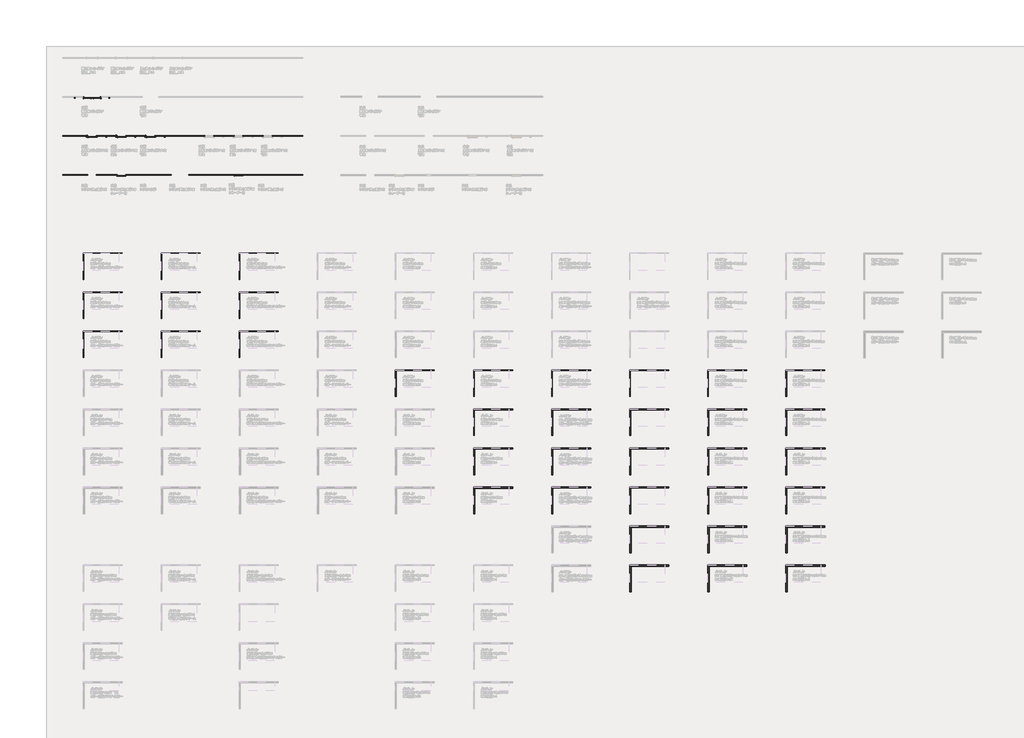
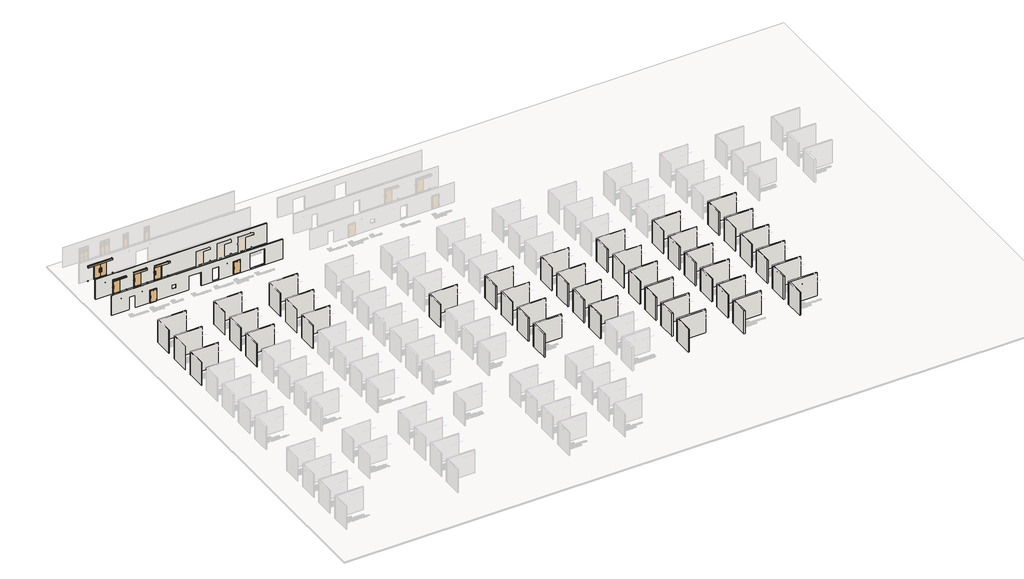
# One storey, part 2 of 117: 74 walls, 6 doors.
"""IFC4 building model written with IfcOpenShell, lengths in millimetres."""

from ifc_helpers import new_model, si_unit, frame, origin, place, context, project, spatial, polyline, outline, extrude, faceted_brep, transform, mapped, element, save
from components import door_d97cfcf3, door_0f3012db, door_3a216a61, door_3e6fd68f, door_920d7e31, door_fa35789d

model = new_model("IFC4")

# Units and contexts
model_context = context("Model", 3, world=origin())
ifc_project = project(units=[si_unit("LENGTHUNIT", "METRE", prefix="MILLI")], contexts=[model_context])

# Site, building, storey
site = spatial("IfcSite", under=ifc_project)
building = spatial("IfcBuilding", under=site)
storey = spatial("IfcBuildingStorey", under=building, Name="レベル 1", Elevation=500.0)

# Doors
placement = place(None, origin())
door_shape = door_d97cfcf3(model_context)
element("IfcDoor", 1, ObjectType="冷蔵_シリウス片開き扉4方_クローザー付 : W870xH1800xt50", at=placement, inside=storey, context=model_context, shape_type="MappedRepresentation", body=[
    mapped(door_shape, transform((-8100.0, 20000.0, 700.0), x_axis=(-1.0, 0.0, 0.0), y_axis=(0.0, -1.0, 0.0), z_axis=(0.0, 0.0, 1.0))),
])
door_2_shape = door_0f3012db(model_context)
element("IfcDoor", 2, ObjectType="冷蔵_片引きスライドドア3方_自閉 : W870xH1905xt55", at=placement, inside=storey, context=model_context, shape_type="MappedRepresentation", body=[
    mapped(door_2_shape, transform((-20100.0, 24000.0, 500.0), x_axis=(-1.0, 0.0, 0.0), y_axis=(0.0, -1.0, 0.0), z_axis=(0.0, 0.0, 1.0))),
])
door_3_shape = door_3a216a61(model_context)
element("IfcDoor", 3, ObjectType="冷蔵_片引きスライドドア3方_手動 : W870xH1905xt55", at=placement, inside=storey, context=model_context, shape_type="MappedRepresentation", body=[
    mapped(door_3_shape, transform((-23100.0, 24000.0, 500.0), x_axis=(-1.0, 0.0, 0.0), y_axis=(0.0, -1.0, 0.0), z_axis=(0.0, 0.0, 1.0))),
])
door_4_shape = door_3e6fd68f(model_context)
element("IfcDoor", 4, ObjectType="冷蔵_片引きスライドドア3方_電動 : W870xH1905xt55", at=placement, inside=storey, context=model_context, shape_type="MappedRepresentation", body=[
    mapped(door_4_shape, transform((-17100.0, 24000.0, 500.0), x_axis=(-1.0, 0.0, 0.0), y_axis=(0.0, -1.0, 0.0), z_axis=(0.0, 0.0, 1.0))),
])
door_5_shape = door_920d7e31(model_context)
element("IfcDoor", 5, ObjectType="冷蔵_両引きスライドドア_手動 : W1671xH2000xt50", at=placement, inside=storey, context=model_context, shape_type="MappedRepresentation", body=[
    mapped(door_5_shape, transform((-23100.0, 28000.0, 500.0), x_axis=(-1.0, 0.0, 0.0), y_axis=(0.0, -1.0, 0.0), z_axis=(0.0, 0.0, 1.0))),
])
door_6_shape = door_fa35789d(model_context)
element("IfcDoor", 6, ObjectType="冷蔵_シリウス片開き扉3方_クローザー付 : W870xH1855xt50", at=placement, inside=storey, context=model_context, shape_type="MappedRepresentation", body=[
    mapped(door_6_shape, transform((-20100.0, 20000.0, 500.0), x_axis=(-1.0, 0.0, 0.0), y_axis=(0.0, -1.0, 0.0), z_axis=(0.0, 0.0, 1.0))),
])

# Walls
element("IfcWall", 7, ObjectType="g-p_断熱パネル(フラット)t44", at=placement, inside=storey, context=model_context, shape_type="Brep", body=[
    faceted_brep([(-24000.0, 11956.0, 500.0), (-23956.0, 11956.0, 500.0), (-20000.0, 11956.0, 500.0), (-20000.0, 11956.0, 4000.0), (-23956.0, 11956.0, 4000.0), (-24000.0, 11956.0, 4000.0), (-24000.0, 12000.0, 500.0), (-24000.0, 12000.0, 4000.0), (-20000.0, 12000.0, 4000.0), (-20000.0, 12000.0, 500.0)], [[[0, 1, 2, 3, 4, 5]], [[6, 7, 8, 9]], [[2, 1, 0, 6, 9]], [[3, 2, 9, 8]], [[5, 4, 3, 8, 7]], [[0, 5, 7, 6]]]),
])
element("IfcWall", 8, ObjectType="g-p_断熱パネル(フラット)t44", at=placement, inside=storey, context=model_context, shape_type="SweptSolid", body=[
    extrude(outline(polyline([(-24000.0, 9278.0), (-24000.0, 11956.0), (-23956.0, 11956.0), (-23956.0, 9278.0), (-24000.0, 9278.0)])), frame((0.0, 0.0, 500.0), z_axis=(0.0, 0.0, 1.0), x_axis=(1.0, 0.0, 0.0)), (0.0, 0.0, 1.0), 3500.0),
])
element("IfcWall", 9, ObjectType="g-p_断熱パネル(フラット)t50", at=placement, inside=storey, context=model_context, shape_type="Brep", body=[
    faceted_brep([(-24000.0, 7950.0, 500.0), (-23950.0, 7950.0, 500.0), (-20000.0, 7950.0, 500.0), (-20000.0, 7950.0, 4000.0), (-23950.0, 7950.0, 4000.0), (-24000.0, 7950.0, 4000.0), (-24000.0, 8000.0, 500.0), (-24000.0, 8000.0, 4000.0), (-20000.0, 8000.0, 4000.0), (-20000.0, 8000.0, 500.0)], [[[0, 1, 2, 3, 4, 5]], [[6, 7, 8, 9]], [[2, 1, 0, 6, 9]], [[3, 2, 9, 8]], [[5, 4, 3, 8, 7]], [[0, 5, 7, 6]]]),
])
element("IfcWall", 10, ObjectType="g-p_断熱パネル(フラット)t50", at=placement, inside=storey, context=model_context, shape_type="SweptSolid", body=[
    extrude(outline(polyline([(-24000.0, 5275.0), (-24000.0, 7950.0), (-23950.0, 7950.0), (-23950.0, 5275.0), (-24000.0, 5275.0)])), frame((0.0, 0.0, 500.0), z_axis=(0.0, 0.0, 1.0), x_axis=(1.0, 0.0, 0.0)), (0.0, 0.0, 1.0), 3500.0),
])
element("IfcWall", 11, ObjectType="g-p_断熱パネル(フラット)t62", at=placement, inside=storey, context=model_context, shape_type="Brep", body=[
    faceted_brep([(-24000.0, 3938.0, 500.0), (-23938.0, 3938.0, 500.0), (-20000.0, 3938.0, 500.0), (-20000.0, 3938.0, 4000.0), (-23938.0, 3938.0, 4000.0), (-24000.0, 3938.0, 4000.0), (-24000.0, 4000.0, 500.0), (-24000.0, 4000.0, 4000.0), (-20000.0, 4000.0, 4000.0), (-20000.0, 4000.0, 500.0)], [[[0, 1, 2, 3, 4, 5]], [[6, 7, 8, 9]], [[2, 1, 0, 6, 9]], [[3, 2, 9, 8]], [[5, 4, 3, 8, 7]], [[0, 5, 7, 6]]]),
])
element("IfcWall", 12, ObjectType="g-p_断熱パネル(フラット)t62", at=placement, inside=storey, context=model_context, shape_type="SweptSolid", body=[
    extrude(outline(polyline([(-24000.0, 1269.0), (-24000.0, 3938.0), (-23938.0, 3938.0), (-23938.0, 1269.0), (-24000.0, 1269.0)])), frame((0.0, 0.0, 500.0), z_axis=(0.0, 0.0, 1.0), x_axis=(1.0, 0.0, 0.0)), (0.0, 0.0, 1.0), 3500.0),
])
element("IfcWall", 13, ObjectType="g-p_断熱パネル(フラット)t44", at=placement, inside=storey, context=model_context, shape_type="Brep", body=[
    faceted_brep([(-16000.0, 11956.0, 500.0), (-15956.0, 11956.0, 500.0), (-12000.0, 11956.0, 500.0), (-12000.0, 11956.0, 4000.0), (-15956.0, 11956.0, 4000.0), (-16000.0, 11956.0, 4000.0), (-16000.0, 12000.0, 500.0), (-16000.0, 12000.0, 4000.0), (-12000.0, 12000.0, 4000.0), (-12000.0, 12000.0, 500.0)], [[[0, 1, 2, 3, 4, 5]], [[6, 7, 8, 9]], [[2, 1, 0, 6, 9]], [[3, 2, 9, 8]], [[5, 4, 3, 8, 7]], [[0, 5, 7, 6]]]),
])
element("IfcWall", 14, ObjectType="g-p_断熱パネル(フラット)t44", at=placement, inside=storey, context=model_context, shape_type="SweptSolid", body=[
    extrude(outline(polyline([(-16000.0, 9278.0), (-16000.0, 11956.0), (-15956.0, 11956.0), (-15956.0, 9278.0), (-16000.0, 9278.0)])), frame((0.0, 0.0, 500.0), z_axis=(0.0, 0.0, 1.0), x_axis=(1.0, 0.0, 0.0)), (0.0, 0.0, 1.0), 3500.0),
])
element("IfcWall", 15, ObjectType="g-p_断熱パネル(フラット)t50", at=placement, inside=storey, context=model_context, shape_type="Brep", body=[
    faceted_brep([(-16000.0, 7950.0, 500.0), (-15950.0, 7950.0, 500.0), (-12000.0, 7950.0, 500.0), (-12000.0, 7950.0, 4000.0), (-15950.0, 7950.0, 4000.0), (-16000.0, 7950.0, 4000.0), (-16000.0, 8000.0, 500.0), (-16000.0, 8000.0, 4000.0), (-12000.0, 8000.0, 4000.0), (-12000.0, 8000.0, 500.0)], [[[0, 1, 2, 3, 4, 5]], [[6, 7, 8, 9]], [[2, 1, 0, 6, 9]], [[3, 2, 9, 8]], [[5, 4, 3, 8, 7]], [[0, 5, 7, 6]]]),
])
element("IfcWall", 16, ObjectType="g-p_断熱パネル(フラット)t50", at=placement, inside=storey, context=model_context, shape_type="SweptSolid", body=[
    extrude(outline(polyline([(-16000.0, 5275.0), (-16000.0, 7950.0), (-15950.0, 7950.0), (-15950.0, 5275.0), (-16000.0, 5275.0)])), frame((0.0, 0.0, 500.0), z_axis=(0.0, 0.0, 1.0), x_axis=(1.0, 0.0, 0.0)), (0.0, 0.0, 1.0), 3500.0),
])
element("IfcWall", 17, ObjectType="g-p_断熱パネル(フラット)t62", at=placement, inside=storey, context=model_context, shape_type="Brep", body=[
    faceted_brep([(-16000.0, 3938.0, 500.0), (-15938.0, 3938.0, 500.0), (-12000.0, 3938.0, 500.0), (-12000.0, 3938.0, 4000.0), (-15938.0, 3938.0, 4000.0), (-16000.0, 3938.0, 4000.0), (-16000.0, 4000.0, 500.0), (-16000.0, 4000.0, 4000.0), (-12000.0, 4000.0, 4000.0), (-12000.0, 4000.0, 500.0)], [[[0, 1, 2, 3, 4, 5]], [[6, 7, 8, 9]], [[2, 1, 0, 6, 9]], [[3, 2, 9, 8]], [[5, 4, 3, 8, 7]], [[0, 5, 7, 6]]]),
])
element("IfcWall", 18, ObjectType="g-p_断熱パネル(フラット)t62", at=placement, inside=storey, context=model_context, shape_type="SweptSolid", body=[
    extrude(outline(polyline([(-16000.0, 1269.0), (-16000.0, 3938.0), (-15938.0, 3938.0), (-15938.0, 1269.0), (-16000.0, 1269.0)])), frame((0.0, 0.0, 500.0), z_axis=(0.0, 0.0, 1.0), x_axis=(1.0, 0.0, 0.0)), (0.0, 0.0, 1.0), 3500.0),
])
element("IfcWall", 19, ObjectType="g-p_断熱パネル(フラット)t44", at=placement, inside=storey, context=model_context, shape_type="Brep", body=[
    faceted_brep([(-8000.0, 11956.0, 500.0), (-7956.0, 11956.0, 500.0), (-4000.0, 11956.0, 500.0), (-4000.0, 11956.0, 4000.0), (-7956.0, 11956.0, 4000.0), (-8000.0, 11956.0, 4000.0), (-8000.0, 12000.0, 500.0), (-8000.0, 12000.0, 4000.0), (-4000.0, 12000.0, 4000.0), (-4000.0, 12000.0, 500.0)], [[[0, 1, 2, 3, 4, 5]], [[6, 7, 8, 9]], [[2, 1, 0, 6, 9]], [[3, 2, 9, 8]], [[5, 4, 3, 8, 7]], [[0, 5, 7, 6]]]),
])
element("IfcWall", 20, ObjectType="g-p_断熱パネル(フラット)t44", at=placement, inside=storey, context=model_context, shape_type="SweptSolid", body=[
    extrude(outline(polyline([(-8000.0, 9278.0), (-8000.0, 11956.0), (-7956.0, 11956.0), (-7956.0, 9278.0), (-8000.0, 9278.0)])), frame((0.0, 0.0, 500.0), z_axis=(0.0, 0.0, 1.0), x_axis=(1.0, 0.0, 0.0)), (0.0, 0.0, 1.0), 3500.0),
])
element("IfcWall", 21, ObjectType="g-p_断熱パネル(フラット)t50", at=placement, inside=storey, context=model_context, shape_type="Brep", body=[
    faceted_brep([(-8000.0, 7950.0, 500.0), (-7950.0, 7950.0, 500.0), (-4000.0, 7950.0, 500.0), (-4000.0, 7950.0, 4000.0), (-7950.0, 7950.0, 4000.0), (-8000.0, 7950.0, 4000.0), (-8000.0, 8000.0, 500.0), (-8000.0, 8000.0, 4000.0), (-4000.0, 8000.0, 4000.0), (-4000.0, 8000.0, 500.0)], [[[0, 1, 2, 3, 4, 5]], [[6, 7, 8, 9]], [[2, 1, 0, 6, 9]], [[3, 2, 9, 8]], [[5, 4, 3, 8, 7]], [[0, 5, 7, 6]]]),
])
element("IfcWall", 22, ObjectType="g-p_断熱パネル(フラット)t50", at=placement, inside=storey, context=model_context, shape_type="SweptSolid", body=[
    extrude(outline(polyline([(-8000.0, 5275.0), (-8000.0, 7950.0), (-7950.0, 7950.0), (-7950.0, 5275.0), (-8000.0, 5275.0)])), frame((0.0, 0.0, 500.0), z_axis=(0.0, 0.0, 1.0), x_axis=(1.0, 0.0, 0.0)), (0.0, 0.0, 1.0), 3500.0),
])
element("IfcWall", 23, ObjectType="g-p_断熱パネル(フラット)t62", at=placement, inside=storey, context=model_context, shape_type="Brep", body=[
    faceted_brep([(-8000.0, 3938.0, 500.0), (-7938.0, 3938.0, 500.0), (-4000.0, 3938.0, 500.0), (-4000.0, 3938.0, 4000.0), (-7938.0, 3938.0, 4000.0), (-8000.0, 3938.0, 4000.0), (-8000.0, 4000.0, 500.0), (-8000.0, 4000.0, 4000.0), (-4000.0, 4000.0, 4000.0), (-4000.0, 4000.0, 500.0)], [[[0, 1, 2, 3, 4, 5]], [[6, 7, 8, 9]], [[2, 1, 0, 6, 9]], [[3, 2, 9, 8]], [[5, 4, 3, 8, 7]], [[0, 5, 7, 6]]]),
])
element("IfcWall", 24, ObjectType="g-p_断熱パネル(フラット)t62", at=placement, inside=storey, context=model_context, shape_type="SweptSolid", body=[
    extrude(outline(polyline([(-8000.0, 1269.0), (-8000.0, 3938.0), (-7938.0, 3938.0), (-7938.0, 1269.0), (-8000.0, 1269.0)])), frame((0.0, 0.0, 500.0), z_axis=(0.0, 0.0, 1.0), x_axis=(1.0, 0.0, 0.0)), (0.0, 0.0, 1.0), 3500.0),
])
element("IfcWall", 25, ObjectType="g-p_断熱パネル(フラット)t77", at=placement, inside=storey, context=model_context, shape_type="Brep", body=[
    faceted_brep([(8000.0, -77.0, 500.0), (8077.0, -77.0, 500.0), (12000.0, -77.0, 500.0), (12000.0, -77.0, 4000.0), (8077.0, -77.0, 4000.0), (8000.0, -77.0, 4000.0), (8000.0, 0.0, 500.0), (8000.0, 0.0, 4000.0), (12000.0, 0.0, 4000.0), (12000.0, 0.0, 500.0)], [[[0, 1, 2, 3, 4, 5]], [[6, 7, 8, 9]], [[2, 1, 0, 6, 9]], [[3, 2, 9, 8]], [[5, 4, 3, 8, 7]], [[0, 5, 7, 6]]]),
])
element("IfcWall", 26, ObjectType="g-p_断熱パネル(フラット)t77", at=placement, inside=storey, context=model_context, shape_type="SweptSolid", body=[
    extrude(outline(polyline([(8000.0, -2738.5), (8000.0, -77.0), (8077.0, -77.0), (8077.0, -2738.5), (8000.0, -2738.5)])), frame((0.0, 0.0, 500.0), z_axis=(0.0, 0.0, 1.0), x_axis=(1.0, 0.0, 0.0)), (0.0, 0.0, 1.0), 3500.0),
])
element("IfcWall", 27, ObjectType="g-p_断熱パネル(フラット)t77", at=placement, inside=storey, context=model_context, shape_type="Brep", body=[
    faceted_brep([(16000.0, -77.0, 500.0), (16077.0, -77.0, 500.0), (20000.0, -77.0, 500.0), (20000.0, -77.0, 4000.0), (16077.0, -77.0, 4000.0), (16000.0, -77.0, 4000.0), (16000.0, 0.0, 500.0), (16000.0, 0.0, 4000.0), (20000.0, 0.0, 4000.0), (20000.0, 0.0, 500.0)], [[[0, 1, 2, 3, 4, 5]], [[6, 7, 8, 9]], [[2, 1, 0, 6, 9]], [[3, 2, 9, 8]], [[5, 4, 3, 8, 7]], [[0, 5, 7, 6]]]),
])
element("IfcWall", 28, ObjectType="g-p_断熱パネル(フラット)t77", at=placement, inside=storey, context=model_context, shape_type="SweptSolid", body=[
    extrude(outline(polyline([(16000.0, -2738.5), (16000.0, -77.0), (16077.0, -77.0), (16077.0, -2738.5), (16000.0, -2738.5)])), frame((0.0, 0.0, 500.0), z_axis=(0.0, 0.0, 1.0), x_axis=(1.0, 0.0, 0.0)), (0.0, 0.0, 1.0), 3500.0),
])
element("IfcWall", 29, ObjectType="g-p_断熱パネル(フラット)t100", at=placement, inside=storey, context=model_context, shape_type="Brep", body=[
    faceted_brep([(16000.0, -4100.0, 500.0), (16100.0, -4100.0, 500.0), (20000.0, -4100.0, 500.0), (20000.0, -4100.0, 4000.0), (16100.0, -4100.0, 4000.0), (16000.0, -4100.0, 4000.0), (16000.0, -4000.0, 500.0), (16000.0, -4000.0, 4000.0), (20000.0, -4000.0, 4000.0), (20000.0, -4000.0, 500.0)], [[[0, 1, 2, 3, 4, 5]], [[6, 7, 8, 9]], [[2, 1, 0, 6, 9]], [[3, 2, 9, 8]], [[5, 4, 3, 8, 7]], [[0, 5, 7, 6]]]),
])
element("IfcWall", 30, ObjectType="g-p_断熱パネル(フラット)t100", at=placement, inside=storey, context=model_context, shape_type="SweptSolid", body=[
    extrude(outline(polyline([(16000.0, -6750.0), (16000.0, -4100.0), (16100.0, -4100.0), (16100.0, -6750.0), (16000.0, -6750.0)])), frame((0.0, 0.0, 500.0), z_axis=(0.0, 0.0, 1.0), x_axis=(1.0, 0.0, 0.0)), (0.0, 0.0, 1.0), 3500.0),
])
element("IfcWall", 31, ObjectType="g-p_断熱パネル(フラット)t127", at=placement, inside=storey, context=model_context, shape_type="Brep", body=[
    faceted_brep([(16000.0, -8127.0, 500.0), (16127.0, -8127.0, 500.0), (20000.0, -8127.0, 500.0), (20000.0, -8127.0, 4000.0), (16127.0, -8127.0, 4000.0), (16000.0, -8127.0, 4000.0), (16000.0, -8000.0, 500.0), (16000.0, -8000.0, 4000.0), (20000.0, -8000.0, 4000.0), (20000.0, -8000.0, 500.0)], [[[0, 1, 2, 3, 4, 5]], [[6, 7, 8, 9]], [[2, 1, 0, 6, 9]], [[3, 2, 9, 8]], [[5, 4, 3, 8, 7]], [[0, 5, 7, 6]]]),
])
element("IfcWall", 32, ObjectType="g-p_断熱パネル(フラット)t127", at=placement, inside=storey, context=model_context, shape_type="SweptSolid", body=[
    extrude(outline(polyline([(16000.0, -10763.5), (16000.0, -8127.0), (16127.0, -8127.0), (16127.0, -10763.5), (16000.0, -10763.5)])), frame((0.0, 0.0, 500.0), z_axis=(0.0, 0.0, 1.0), x_axis=(1.0, 0.0, 0.0)), (0.0, 0.0, 1.0), 3500.0),
])
element("IfcWall", 33, ObjectType="g-p_断熱パネル(フラット)t152", at=placement, inside=storey, context=model_context, shape_type="Brep", body=[
    faceted_brep([(16000.0, -12152.0, 500.0), (16152.0, -12152.0, 500.0), (20000.0, -12152.0, 500.0), (20000.0, -12152.0, 4000.0), (16152.0, -12152.0, 4000.0), (16000.0, -12152.0, 4000.0), (16000.0, -12000.0, 500.0), (16000.0, -12000.0, 4000.0), (20000.0, -12000.0, 4000.0), (20000.0, -12000.0, 500.0)], [[[0, 1, 2, 3, 4, 5]], [[6, 7, 8, 9]], [[2, 1, 0, 6, 9]], [[3, 2, 9, 8]], [[5, 4, 3, 8, 7]], [[0, 5, 7, 6]]]),
])
element("IfcWall", 34, ObjectType="g-p_断熱パネル(フラット)t152", at=placement, inside=storey, context=model_context, shape_type="SweptSolid", body=[
    extrude(outline(polyline([(16000.0, -14776.0), (16000.0, -12152.0), (16152.0, -12152.0), (16152.0, -14776.0), (16000.0, -14776.0)])), frame((0.0, 0.0, 500.0), z_axis=(0.0, 0.0, 1.0), x_axis=(1.0, 0.0, 0.0)), (0.0, 0.0, 1.0), 3500.0),
])
element("IfcWall", 35, ObjectType="g-p_断熱パネル(フラット)t44", at=placement, inside=storey, context=model_context, shape_type="SweptSolid", body=[
    extrude(outline(polyline([(500.0, -1500.0), (3500.0, -1500.0), (3500.0, -26100.0), (500.0, -26100.0), (500.0, -23551.00103), (2371.00103, -23551.00103), (2371.00103, -22648.99897), (500.0, -22648.99897), (500.0, -20551.00103), (2371.00103, -20551.00103), (2371.00103, -19648.99897), (500.0, -19648.99897), (500.0, -15001.00103), (2571.00103, -15001.00103), (2571.00103, -13198.99897), (500.0, -13198.99897), (500.0, -1500.0)]), holes=[polyline([(2516.00103, -7648.99897), (684.0, -7648.99897), (684.0, -8551.00103), (2516.00103, -8551.00103), (2516.00103, -7648.99897)]), polyline([(2916.00103, -4083.99897), (684.0, -4083.99897), (684.0, -6116.00103), (2916.00103, -6116.00103), (2916.00103, -4083.99897)]), polyline([(2516.00103, -10648.99897), (684.0, -10648.99897), (684.0, -11551.00103), (2516.00103, -11551.00103), (2516.00103, -10648.99897)]), polyline([(2016.00103, -16833.99897), (1484.0, -16833.99897), (1484.0, -17366.00103), (2016.00103, -17366.00103), (2016.00103, -16833.99897)])]), frame((0.0, 19978.0, 0.0), z_axis=(0.0, 1.0, 0.0), x_axis=(0.0, 0.0, 1.0)), (0.0, 0.0, 1.0), 44.0),
])
element("IfcWall", 36, ObjectType="g-p_断熱パネル(フラット)t44", at=placement, inside=storey, context=model_context, shape_type="SweptSolid", body=[
    extrude(outline(polyline([(500.0, -19648.99897), (500.0, -17551.00103), (2421.00103, -17551.00103), (2421.00103, -16648.99897), (500.0, -16648.99897), (500.0, -1500.0), (3500.0, -1500.0), (3500.0, -26100.0), (500.0, -26100.0), (500.0, -23551.00103), (2421.00103, -23551.00103), (2421.00103, -22648.99897), (500.0, -22648.99897), (500.0, -20551.00103), (2421.00103, -20551.00103), (2421.00103, -19648.99897), (500.0, -19648.99897)]), holes=[polyline([(2516.00103, -10648.99897), (684.0, -10648.99897), (684.0, -11551.00103), (2516.00103, -11551.00103), (2516.00103, -10648.99897)]), polyline([(2516.00103, -7648.99897), (684.0, -7648.99897), (684.0, -8551.00103), (2516.00103, -8551.00103), (2516.00103, -7648.99897)]), polyline([(2516.00103, -4648.99897), (684.0, -4648.99897), (684.0, -5551.00103), (2516.00103, -5551.00103), (2516.00103, -4648.99897)])]), frame((0.0, 23978.0, 0.0), z_axis=(0.0, 1.0, 0.0), x_axis=(0.0, 0.0, 1.0)), (0.0, 0.0, 1.0), 44.0),
])
element("IfcWall", 37, ObjectType="g-p_ECO不燃断熱パネル(フラット)t87", at=placement, inside=storey, context=model_context, shape_type="Brep", body=[
    faceted_brep([(24000.0, -87.0, 500.0), (24087.0, -87.0, 500.0), (27993.5, -87.0, 500.0), (27993.5, -87.0, 4000.0), (24087.0, -87.0, 4000.0), (24000.0, -87.0, 4000.0), (24000.0, 0.0, 500.0), (24000.0, 0.0, 4000.0), (27993.5, 0.0, 4000.0), (27993.5, 0.0, 500.0)], [[[0, 1, 2, 3, 4, 5]], [[6, 7, 8, 9]], [[2, 1, 0, 6, 9]], [[3, 2, 9, 8]], [[5, 4, 3, 8, 7]], [[0, 5, 7, 6]]]),
])
element("IfcWall", 38, ObjectType="g-p_ECO不燃断熱パネル(フラット)t87", at=placement, inside=storey, context=model_context, shape_type="SweptSolid", body=[
    extrude(outline(polyline([(24000.0, -2743.5), (24000.0, -87.0), (24087.0, -87.0), (24087.0, -2743.5), (24000.0, -2743.5)])), frame((0.0, 0.0, 500.0), z_axis=(0.0, 0.0, 1.0), x_axis=(1.0, 0.0, 0.0)), (0.0, 0.0, 1.0), 3500.0),
])
element("IfcWall", 39, ObjectType="g-p_ECO不燃断熱パネル(フラット)t102", at=placement, inside=storey, context=model_context, shape_type="Brep", body=[
    faceted_brep([(24000.0, -4102.0, 500.0), (24102.0, -4102.0, 500.0), (28029.0, -4102.0, 500.0), (28029.0, -4102.0, 4000.0), (24102.0, -4102.0, 4000.0), (24000.0, -4102.0, 4000.0), (24000.0, -4000.0, 500.0), (24000.0, -4000.0, 4000.0), (28029.0, -4000.0, 4000.0), (28029.0, -4000.0, 500.0)], [[[0, 1, 2, 3, 4, 5]], [[6, 7, 8, 9]], [[2, 1, 0, 6, 9]], [[3, 2, 9, 8]], [[5, 4, 3, 8, 7]], [[0, 5, 7, 6]]]),
])
element("IfcWall", 40, ObjectType="g-p_ECO不燃断熱パネル(フラット)t102", at=placement, inside=storey, context=model_context, shape_type="SweptSolid", body=[
    extrude(outline(polyline([(24000.0, -6751.0), (24000.0, -4102.0), (24102.0, -4102.0), (24102.0, -6751.0), (24000.0, -6751.0)])), frame((0.0, 0.0, 500.0), z_axis=(0.0, 0.0, 1.0), x_axis=(1.0, 0.0, 0.0)), (0.0, 0.0, 1.0), 3500.0),
])
element("IfcWall", 41, ObjectType="g-p_ECO不燃断熱パネル(フラット)t118", at=placement, inside=storey, context=model_context, shape_type="Brep", body=[
    faceted_brep([(24000.0, -8118.0, 500.0), (24118.0, -8118.0, 500.0), (28034.0, -8118.0, 500.0), (28034.0, -8118.0, 4000.0), (24118.0, -8118.0, 4000.0), (24000.0, -8118.0, 4000.0), (24000.0, -8000.0, 500.0), (24000.0, -8000.0, 4000.0), (28034.0, -8000.0, 4000.0), (28034.0, -8000.0, 500.0)], [[[0, 1, 2, 3, 4, 5]], [[6, 7, 8, 9]], [[2, 1, 0, 6, 9]], [[3, 2, 9, 8]], [[5, 4, 3, 8, 7]], [[0, 5, 7, 6]]]),
])
element("IfcWall", 42, ObjectType="g-p_ECO不燃断熱パネル(フラット)t118", at=placement, inside=storey, context=model_context, shape_type="SweptSolid", body=[
    extrude(outline(polyline([(24000.0, -10759.0), (24000.0, -8118.0), (24118.0, -8118.0), (24118.0, -10759.0), (24000.0, -10759.0)])), frame((0.0, 0.0, 500.0), z_axis=(0.0, 0.0, 1.0), x_axis=(1.0, 0.0, 0.0)), (0.0, 0.0, 1.0), 3500.0),
])
element("IfcWall", 43, ObjectType="g-p_ECO不燃断熱パネル(フラット)t134", at=placement, inside=storey, context=model_context, shape_type="Brep", body=[
    faceted_brep([(24000.0, -12134.0, 500.0), (24134.0, -12134.0, 500.0), (28028.5, -12134.0, 500.0), (28028.5, -12134.0, 4000.0), (24134.0, -12134.0, 4000.0), (24000.0, -12134.0, 4000.0), (24000.0, -12000.0, 500.0), (24000.0, -12000.0, 4000.0), (28028.5, -12000.0, 4000.0), (28028.5, -12000.0, 500.0)], [[[0, 1, 2, 3, 4, 5]], [[6, 7, 8, 9]], [[2, 1, 0, 6, 9]], [[3, 2, 9, 8]], [[5, 4, 3, 8, 7]], [[0, 5, 7, 6]]]),
])
element("IfcWall", 44, ObjectType="g-p_ECO不燃断熱パネル(フラット)t134", at=placement, inside=storey, context=model_context, shape_type="SweptSolid", body=[
    extrude(outline(polyline([(24000.0, -14767.0), (24000.0, -12134.0), (24134.0, -12134.0), (24134.0, -14767.0), (24000.0, -14767.0)])), frame((0.0, 0.0, 500.0), z_axis=(0.0, 0.0, 1.0), x_axis=(1.0, 0.0, 0.0)), (0.0, 0.0, 1.0), 3500.0),
])
element("IfcWall", 45, ObjectType="g-p_ECO不燃断熱パネル(フラット)t87", at=placement, inside=storey, context=model_context, shape_type="Brep", body=[
    faceted_brep([(32000.0, -87.0, 500.0), (32087.0, -87.0, 500.0), (35993.5, -87.0, 500.0), (35993.5, -87.0, 4000.0), (32087.0, -87.0, 4000.0), (32000.0, -87.0, 4000.0), (32000.0, 0.0, 500.0), (32000.0, 0.0, 4000.0), (35993.5, 0.0, 4000.0), (35993.5, 0.0, 500.0)], [[[0, 1, 2, 3, 4, 5]], [[6, 7, 8, 9]], [[2, 1, 0, 6, 9]], [[3, 2, 9, 8]], [[5, 4, 3, 8, 7]], [[0, 5, 7, 6]]]),
])
element("IfcWall", 46, ObjectType="g-p_ECO不燃断熱パネル(フラット)t87", at=placement, inside=storey, context=model_context, shape_type="SweptSolid", body=[
    extrude(outline(polyline([(32000.0, -2743.5), (32000.0, -87.0), (32087.0, -87.0), (32087.0, -2743.5), (32000.0, -2743.5)])), frame((0.0, 0.0, 500.0), z_axis=(0.0, 0.0, 1.0), x_axis=(1.0, 0.0, 0.0)), (0.0, 0.0, 1.0), 3500.0),
])
element("IfcWall", 47, ObjectType="g-p_ECO不燃断熱パネル(フラット)t102", at=placement, inside=storey, context=model_context, shape_type="Brep", body=[
    faceted_brep([(32000.0, -4102.0, 500.0), (32102.0, -4102.0, 500.0), (36029.0, -4102.0, 500.0), (36029.0, -4102.0, 4000.0), (32102.0, -4102.0, 4000.0), (32000.0, -4102.0, 4000.0), (32000.0, -4000.0, 500.0), (32000.0, -4000.0, 4000.0), (36029.0, -4000.0, 4000.0), (36029.0, -4000.0, 500.0)], [[[0, 1, 2, 3, 4, 5]], [[6, 7, 8, 9]], [[2, 1, 0, 6, 9]], [[3, 2, 9, 8]], [[5, 4, 3, 8, 7]], [[0, 5, 7, 6]]]),
])
element("IfcWall", 48, ObjectType="g-p_ECO不燃断熱パネル(フラット)t102", at=placement, inside=storey, context=model_context, shape_type="SweptSolid", body=[
    extrude(outline(polyline([(32000.0, -6751.0), (32000.0, -4102.0), (32102.0, -4102.0), (32102.0, -6751.0), (32000.0, -6751.0)])), frame((0.0, 0.0, 500.0), z_axis=(0.0, 0.0, 1.0), x_axis=(1.0, 0.0, 0.0)), (0.0, 0.0, 1.0), 3500.0),
])
element("IfcWall", 49, ObjectType="g-p_ECO不燃断熱パネル(フラット)t118", at=placement, inside=storey, context=model_context, shape_type="Brep", body=[
    faceted_brep([(32000.0, -8118.0, 500.0), (32118.0, -8118.0, 500.0), (36034.0, -8118.0, 500.0), (36034.0, -8118.0, 4000.0), (32118.0, -8118.0, 4000.0), (32000.0, -8118.0, 4000.0), (32000.0, -8000.0, 500.0), (32000.0, -8000.0, 4000.0), (36034.0, -8000.0, 4000.0), (36034.0, -8000.0, 500.0)], [[[0, 1, 2, 3, 4, 5]], [[6, 7, 8, 9]], [[2, 1, 0, 6, 9]], [[3, 2, 9, 8]], [[5, 4, 3, 8, 7]], [[0, 5, 7, 6]]]),
])
element("IfcWall", 50, ObjectType="g-p_ECO不燃断熱パネル(フラット)t118", at=placement, inside=storey, context=model_context, shape_type="SweptSolid", body=[
    extrude(outline(polyline([(32000.0, -10759.0), (32000.0, -8118.0), (32118.0, -8118.0), (32118.0, -10759.0), (32000.0, -10759.0)])), frame((0.0, 0.0, 500.0), z_axis=(0.0, 0.0, 1.0), x_axis=(1.0, 0.0, 0.0)), (0.0, 0.0, 1.0), 3500.0),
])
element("IfcWall", 51, ObjectType="g-p_ECO不燃断熱パネル(フラット)t134", at=placement, inside=storey, context=model_context, shape_type="Brep", body=[
    faceted_brep([(32000.0, -12134.0, 500.0), (32134.0, -12134.0, 500.0), (36028.5, -12134.0, 500.0), (36028.5, -12134.0, 4000.0), (32134.0, -12134.0, 4000.0), (32000.0, -12134.0, 4000.0), (32000.0, -12000.0, 500.0), (32000.0, -12000.0, 4000.0), (36028.5, -12000.0, 4000.0), (36028.5, -12000.0, 500.0)], [[[0, 1, 2, 3, 4, 5]], [[6, 7, 8, 9]], [[2, 1, 0, 6, 9]], [[3, 2, 9, 8]], [[5, 4, 3, 8, 7]], [[0, 5, 7, 6]]]),
])
element("IfcWall", 52, ObjectType="g-p_ECO不燃断熱パネル(フラット)t134", at=placement, inside=storey, context=model_context, shape_type="SweptSolid", body=[
    extrude(outline(polyline([(32000.0, -14767.0), (32000.0, -12134.0), (32134.0, -12134.0), (32134.0, -14767.0), (32000.0, -14767.0)])), frame((0.0, 0.0, 500.0), z_axis=(0.0, 0.0, 1.0), x_axis=(1.0, 0.0, 0.0)), (0.0, 0.0, 1.0), 3500.0),
])
element("IfcWall", 53, ObjectType="g-p_ECO不燃断熱パネル(フラット)t152", at=placement, inside=storey, context=model_context, shape_type="Brep", body=[
    faceted_brep([(32000.0, -16152.0, 500.0), (32152.0, -16152.0, 500.0), (36026.0, -16152.0, 500.0), (36026.0, -16152.0, 4000.0), (32152.0, -16152.0, 4000.0), (32000.0, -16152.0, 4000.0), (32000.0, -16000.0, 500.0), (32000.0, -16000.0, 4000.0), (36026.0, -16000.0, 4000.0), (36026.0, -16000.0, 500.0)], [[[0, 1, 2, 3, 4, 5]], [[6, 7, 8, 9]], [[2, 1, 0, 6, 9]], [[3, 2, 9, 8]], [[5, 4, 3, 8, 7]], [[0, 5, 7, 6]]]),
])
element("IfcWall", 54, ObjectType="g-p_ECO不燃断熱パネル(フラット)t152", at=placement, inside=storey, context=model_context, shape_type="SweptSolid", body=[
    extrude(outline(polyline([(32000.0, -18776.0), (32000.0, -16152.0), (32152.0, -16152.0), (32152.0, -18776.0), (32000.0, -18776.0)])), frame((0.0, 0.0, 500.0), z_axis=(0.0, 0.0, 1.0), x_axis=(1.0, 0.0, 0.0)), (0.0, 0.0, 1.0), 3500.0),
])
element("IfcWall", 55, ObjectType="g-p_ECO不燃断熱パネル(フラット)t168", at=placement, inside=storey, context=model_context, shape_type="Brep", body=[
    faceted_brep([(32000.0, -20168.0, 500.0), (32168.0, -20168.0, 500.0), (36034.0, -20168.0, 500.0), (36034.0, -20168.0, 4000.0), (32168.0, -20168.0, 4000.0), (32000.0, -20168.0, 4000.0), (32000.0, -20000.0, 500.0), (32000.0, -20000.0, 4000.0), (36034.0, -20000.0, 4000.0), (36034.0, -20000.0, 500.0)], [[[0, 1, 2, 3, 4, 5]], [[6, 7, 8, 9]], [[2, 1, 0, 6, 9]], [[3, 2, 9, 8]], [[5, 4, 3, 8, 7]], [[0, 5, 7, 6]]]),
])
element("IfcWall", 56, ObjectType="g-p_ECO不燃断熱パネル(フラット)t168", at=placement, inside=storey, context=model_context, shape_type="SweptSolid", body=[
    extrude(outline(polyline([(32000.0, -22784.0), (32000.0, -20168.0), (32168.0, -20168.0), (32168.0, -22784.0), (32000.0, -22784.0)])), frame((0.0, 0.0, 500.0), z_axis=(0.0, 0.0, 1.0), x_axis=(1.0, 0.0, 0.0)), (0.0, 0.0, 1.0), 3500.0),
])
element("IfcWall", 57, ObjectType="g-p_ECO不燃断熱パネル(フラット)t87", at=placement, inside=storey, context=model_context, shape_type="Brep", body=[
    faceted_brep([(40000.0, -87.0, 500.0), (40087.0, -87.0, 500.0), (43993.5, -87.0, 500.0), (43993.5, -87.0, 4000.0), (40087.0, -87.0, 4000.0), (40000.0, -87.0, 4000.0), (40000.0, 0.0, 500.0), (40000.0, 0.0, 4000.0), (43993.5, 0.0, 4000.0), (43993.5, 0.0, 500.0)], [[[0, 1, 2, 3, 4, 5]], [[6, 7, 8, 9]], [[2, 1, 0, 6, 9]], [[3, 2, 9, 8]], [[5, 4, 3, 8, 7]], [[0, 5, 7, 6]]]),
])
element("IfcWall", 58, ObjectType="g-p_ECO不燃断熱パネル(フラット)t87", at=placement, inside=storey, context=model_context, shape_type="SweptSolid", body=[
    extrude(outline(polyline([(40000.0, -2743.5), (40000.0, -87.0), (40087.0, -87.0), (40087.0, -2743.5), (40000.0, -2743.5)])), frame((0.0, 0.0, 500.0), z_axis=(0.0, 0.0, 1.0), x_axis=(1.0, 0.0, 0.0)), (0.0, 0.0, 1.0), 3500.0),
])
element("IfcWall", 59, ObjectType="g-p_ECO不燃断熱パネル(フラット)t102", at=placement, inside=storey, context=model_context, shape_type="Brep", body=[
    faceted_brep([(40000.0, -4102.0, 500.0), (40102.0, -4102.0, 500.0), (44029.0, -4102.0, 500.0), (44029.0, -4102.0, 4000.0), (40102.0, -4102.0, 4000.0), (40000.0, -4102.0, 4000.0), (40000.0, -4000.0, 500.0), (40000.0, -4000.0, 4000.0), (44029.0, -4000.0, 4000.0), (44029.0, -4000.0, 500.0)], [[[0, 1, 2, 3, 4, 5]], [[6, 7, 8, 9]], [[2, 1, 0, 6, 9]], [[3, 2, 9, 8]], [[5, 4, 3, 8, 7]], [[0, 5, 7, 6]]]),
])
element("IfcWall", 60, ObjectType="g-p_ECO不燃断熱パネル(フラット)t102", at=placement, inside=storey, context=model_context, shape_type="SweptSolid", body=[
    extrude(outline(polyline([(40000.0, -6751.0), (40000.0, -4102.0), (40102.0, -4102.0), (40102.0, -6751.0), (40000.0, -6751.0)])), frame((0.0, 0.0, 500.0), z_axis=(0.0, 0.0, 1.0), x_axis=(1.0, 0.0, 0.0)), (0.0, 0.0, 1.0), 3500.0),
])
element("IfcWall", 61, ObjectType="g-p_ECO不燃断熱パネル(フラット)t118", at=placement, inside=storey, context=model_context, shape_type="Brep", body=[
    faceted_brep([(40000.0, -8118.0, 500.0), (40118.0, -8118.0, 500.0), (44034.0, -8118.0, 500.0), (44034.0, -8118.0, 4000.0), (40118.0, -8118.0, 4000.0), (40000.0, -8118.0, 4000.0), (40000.0, -8000.0, 500.0), (40000.0, -8000.0, 4000.0), (44034.0, -8000.0, 4000.0), (44034.0, -8000.0, 500.0)], [[[0, 1, 2, 3, 4, 5]], [[6, 7, 8, 9]], [[2, 1, 0, 6, 9]], [[3, 2, 9, 8]], [[5, 4, 3, 8, 7]], [[0, 5, 7, 6]]]),
])
element("IfcWall", 62, ObjectType="g-p_ECO不燃断熱パネル(フラット)t118", at=placement, inside=storey, context=model_context, shape_type="SweptSolid", body=[
    extrude(outline(polyline([(40000.0, -10759.0), (40000.0, -8118.0), (40118.0, -8118.0), (40118.0, -10759.0), (40000.0, -10759.0)])), frame((0.0, 0.0, 500.0), z_axis=(0.0, 0.0, 1.0), x_axis=(1.0, 0.0, 0.0)), (0.0, 0.0, 1.0), 3500.0),
])
element("IfcWall", 63, ObjectType="g-p_ECO不燃断熱パネル(フラット)t134", at=placement, inside=storey, context=model_context, shape_type="Brep", body=[
    faceted_brep([(40000.0, -12134.0, 500.0), (40134.0, -12134.0, 500.0), (44028.5, -12134.0, 500.0), (44028.5, -12134.0, 4000.0), (40134.0, -12134.0, 4000.0), (40000.0, -12134.0, 4000.0), (40000.0, -12000.0, 500.0), (40000.0, -12000.0, 4000.0), (44028.5, -12000.0, 4000.0), (44028.5, -12000.0, 500.0)], [[[0, 1, 2, 3, 4, 5]], [[6, 7, 8, 9]], [[2, 1, 0, 6, 9]], [[3, 2, 9, 8]], [[5, 4, 3, 8, 7]], [[0, 5, 7, 6]]]),
])
element("IfcWall", 64, ObjectType="g-p_ECO不燃断熱パネル(フラット)t134", at=placement, inside=storey, context=model_context, shape_type="SweptSolid", body=[
    extrude(outline(polyline([(40000.0, -14767.0), (40000.0, -12134.0), (40134.0, -12134.0), (40134.0, -14767.0), (40000.0, -14767.0)])), frame((0.0, 0.0, 500.0), z_axis=(0.0, 0.0, 1.0), x_axis=(1.0, 0.0, 0.0)), (0.0, 0.0, 1.0), 3500.0),
])
element("IfcWall", 65, ObjectType="g-p_ECO不燃断熱パネル(フラット)t152", at=placement, inside=storey, context=model_context, shape_type="Brep", body=[
    faceted_brep([(40000.0, -16152.0, 500.0), (40152.0, -16152.0, 500.0), (44026.0, -16152.0, 500.0), (44026.0, -16152.0, 4000.0), (40152.0, -16152.0, 4000.0), (40000.0, -16152.0, 4000.0), (40000.0, -16000.0, 500.0), (40000.0, -16000.0, 4000.0), (44026.0, -16000.0, 4000.0), (44026.0, -16000.0, 500.0)], [[[0, 1, 2, 3, 4, 5]], [[6, 7, 8, 9]], [[2, 1, 0, 6, 9]], [[3, 2, 9, 8]], [[5, 4, 3, 8, 7]], [[0, 5, 7, 6]]]),
])
element("IfcWall", 66, ObjectType="g-p_ECO不燃断熱パネル(フラット)t152", at=placement, inside=storey, context=model_context, shape_type="SweptSolid", body=[
    extrude(outline(polyline([(40000.0, -18776.0), (40000.0, -16152.0), (40152.0, -16152.0), (40152.0, -18776.0), (40000.0, -18776.0)])), frame((0.0, 0.0, 500.0), z_axis=(0.0, 0.0, 1.0), x_axis=(1.0, 0.0, 0.0)), (0.0, 0.0, 1.0), 3500.0),
])
element("IfcWall", 67, ObjectType="g-p_ECO不燃断熱パネル(フラット)t168", at=placement, inside=storey, context=model_context, shape_type="Brep", body=[
    faceted_brep([(40000.0, -20168.0, 500.0), (40168.0, -20168.0, 500.0), (44034.0, -20168.0, 500.0), (44034.0, -20168.0, 4000.0), (40168.0, -20168.0, 4000.0), (40000.0, -20168.0, 4000.0), (40000.0, -20000.0, 500.0), (40000.0, -20000.0, 4000.0), (44034.0, -20000.0, 4000.0), (44034.0, -20000.0, 500.0)], [[[0, 1, 2, 3, 4, 5]], [[6, 7, 8, 9]], [[2, 1, 0, 6, 9]], [[3, 2, 9, 8]], [[5, 4, 3, 8, 7]], [[0, 5, 7, 6]]]),
])
element("IfcWall", 68, ObjectType="g-p_ECO不燃断熱パネル(フラット)t168", at=placement, inside=storey, context=model_context, shape_type="SweptSolid", body=[
    extrude(outline(polyline([(40000.0, -22784.0), (40000.0, -20168.0), (40168.0, -20168.0), (40168.0, -22784.0), (40000.0, -22784.0)])), frame((0.0, 0.0, 500.0), z_axis=(0.0, 0.0, 1.0), x_axis=(1.0, 0.0, 0.0)), (0.0, 0.0, 1.0), 3500.0),
])
element("IfcWall", 69, ObjectType="g-p_ECO不燃断熱パネル(フラット)t87", at=placement, inside=storey, context=model_context, shape_type="Brep", body=[
    faceted_brep([(48000.0, -87.0, 500.0), (48087.0, -87.0, 500.0), (51993.5, -87.0, 500.0), (51993.5, -87.0, 4000.0), (48087.0, -87.0, 4000.0), (48000.0, -87.0, 4000.0), (48000.0, 0.0, 500.0), (48000.0, 0.0, 4000.0), (51993.5, 0.0, 4000.0), (51993.5, 0.0, 500.0)], [[[0, 1, 2, 3, 4, 5]], [[6, 7, 8, 9]], [[2, 1, 0, 6, 9]], [[3, 2, 9, 8]], [[5, 4, 3, 8, 7]], [[0, 5, 7, 6]]]),
])
element("IfcWall", 70, ObjectType="g-p_ECO不燃断熱パネル(フラット)t87", at=placement, inside=storey, context=model_context, shape_type="SweptSolid", body=[
    extrude(outline(polyline([(48000.0, -2743.5), (48000.0, -87.0), (48087.0, -87.0), (48087.0, -2743.5), (48000.0, -2743.5)])), frame((0.0, 0.0, 500.0), z_axis=(0.0, 0.0, 1.0), x_axis=(1.0, 0.0, 0.0)), (0.0, 0.0, 1.0), 3500.0),
])
element("IfcWall", 71, ObjectType="g-p_ECO不燃断熱パネル(フラット)t102", at=placement, inside=storey, context=model_context, shape_type="Brep", body=[
    faceted_brep([(48000.0, -4102.0, 500.0), (48102.0, -4102.0, 500.0), (52029.0, -4102.0, 500.0), (52029.0, -4102.0, 4000.0), (48102.0, -4102.0, 4000.0), (48000.0, -4102.0, 4000.0), (48000.0, -4000.0, 500.0), (48000.0, -4000.0, 4000.0), (52029.0, -4000.0, 4000.0), (52029.0, -4000.0, 500.0)], [[[0, 1, 2, 3, 4, 5]], [[6, 7, 8, 9]], [[2, 1, 0, 6, 9]], [[3, 2, 9, 8]], [[5, 4, 3, 8, 7]], [[0, 5, 7, 6]]]),
])
element("IfcWall", 72, ObjectType="g-p_ECO不燃断熱パネル(フラット)t102", at=placement, inside=storey, context=model_context, shape_type="SweptSolid", body=[
    extrude(outline(polyline([(48000.0, -6751.0), (48000.0, -4102.0), (48102.0, -4102.0), (48102.0, -6751.0), (48000.0, -6751.0)])), frame((0.0, 0.0, 500.0), z_axis=(0.0, 0.0, 1.0), x_axis=(1.0, 0.0, 0.0)), (0.0, 0.0, 1.0), 3500.0),
])
element("IfcWall", 73, ObjectType="g-p_ECO不燃断熱パネル(フラット)t118", at=placement, inside=storey, context=model_context, shape_type="Brep", body=[
    faceted_brep([(48000.0, -8118.0, 500.0), (48118.0, -8118.0, 500.0), (52034.0, -8118.0, 500.0), (52034.0, -8118.0, 4000.0), (48118.0, -8118.0, 4000.0), (48000.0, -8118.0, 4000.0), (48000.0, -8000.0, 500.0), (48000.0, -8000.0, 4000.0), (52034.0, -8000.0, 4000.0), (52034.0, -8000.0, 500.0)], [[[0, 1, 2, 3, 4, 5]], [[6, 7, 8, 9]], [[2, 1, 0, 6, 9]], [[3, 2, 9, 8]], [[5, 4, 3, 8, 7]], [[0, 5, 7, 6]]]),
])
element("IfcWall", 74, ObjectType="g-p_ECO不燃断熱パネル(フラット)t118", at=placement, inside=storey, context=model_context, shape_type="SweptSolid", body=[
    extrude(outline(polyline([(48000.0, -10759.0), (48000.0, -8118.0), (48118.0, -8118.0), (48118.0, -10759.0), (48000.0, -10759.0)])), frame((0.0, 0.0, 500.0), z_axis=(0.0, 0.0, 1.0), x_axis=(1.0, 0.0, 0.0)), (0.0, 0.0, 1.0), 3500.0),
])
element("IfcWall", 75, ObjectType="g-p_ECO不燃断熱パネル(フラット)t134", at=placement, inside=storey, context=model_context, shape_type="Brep", body=[
    faceted_brep([(48000.0, -12134.0, 500.0), (48134.0, -12134.0, 500.0), (52028.5, -12134.0, 500.0), (52028.5, -12134.0, 4000.0), (48134.0, -12134.0, 4000.0), (48000.0, -12134.0, 4000.0), (48000.0, -12000.0, 500.0), (48000.0, -12000.0, 4000.0), (52028.5, -12000.0, 4000.0), (52028.5, -12000.0, 500.0)], [[[0, 1, 2, 3, 4, 5]], [[6, 7, 8, 9]], [[2, 1, 0, 6, 9]], [[3, 2, 9, 8]], [[5, 4, 3, 8, 7]], [[0, 5, 7, 6]]]),
])
element("IfcWall", 76, ObjectType="g-p_ECO不燃断熱パネル(フラット)t134", at=placement, inside=storey, context=model_context, shape_type="SweptSolid", body=[
    extrude(outline(polyline([(48000.0, -14767.0), (48000.0, -12134.0), (48134.0, -12134.0), (48134.0, -14767.0), (48000.0, -14767.0)])), frame((0.0, 0.0, 500.0), z_axis=(0.0, 0.0, 1.0), x_axis=(1.0, 0.0, 0.0)), (0.0, 0.0, 1.0), 3500.0),
])
element("IfcWall", 77, ObjectType="g-p_ECO不燃断熱パネル(フラット)t152", at=placement, inside=storey, context=model_context, shape_type="Brep", body=[
    faceted_brep([(48000.0, -16152.0, 500.0), (48152.0, -16152.0, 500.0), (52026.0, -16152.0, 500.0), (52026.0, -16152.0, 4000.0), (48152.0, -16152.0, 4000.0), (48000.0, -16152.0, 4000.0), (48000.0, -16000.0, 500.0), (48000.0, -16000.0, 4000.0), (52026.0, -16000.0, 4000.0), (52026.0, -16000.0, 500.0)], [[[0, 1, 2, 3, 4, 5]], [[6, 7, 8, 9]], [[2, 1, 0, 6, 9]], [[3, 2, 9, 8]], [[5, 4, 3, 8, 7]], [[0, 5, 7, 6]]]),
])
element("IfcWall", 78, ObjectType="g-p_ECO不燃断熱パネル(フラット)t152", at=placement, inside=storey, context=model_context, shape_type="SweptSolid", body=[
    extrude(outline(polyline([(48000.0, -18776.0), (48000.0, -16152.0), (48152.0, -16152.0), (48152.0, -18776.0), (48000.0, -18776.0)])), frame((0.0, 0.0, 500.0), z_axis=(0.0, 0.0, 1.0), x_axis=(1.0, 0.0, 0.0)), (0.0, 0.0, 1.0), 3500.0),
])
element("IfcWall", 79, ObjectType="g-p_ECO不燃断熱パネル(フラット)t168", at=placement, inside=storey, context=model_context, shape_type="Brep", body=[
    faceted_brep([(48000.0, -20168.0, 500.0), (48168.0, -20168.0, 500.0), (52034.0, -20168.0, 500.0), (52034.0, -20168.0, 4000.0), (48168.0, -20168.0, 4000.0), (48000.0, -20168.0, 4000.0), (48000.0, -20000.0, 500.0), (48000.0, -20000.0, 4000.0), (52034.0, -20000.0, 4000.0), (52034.0, -20000.0, 500.0)], [[[0, 1, 2, 3, 4, 5]], [[6, 7, 8, 9]], [[2, 1, 0, 6, 9]], [[3, 2, 9, 8]], [[5, 4, 3, 8, 7]], [[0, 5, 7, 6]]]),
])
element("IfcWall", 80, ObjectType="g-p_ECO不燃断熱パネル(フラット)t168", at=placement, inside=storey, context=model_context, shape_type="SweptSolid", body=[
    extrude(outline(polyline([(48000.0, -22784.0), (48000.0, -20168.0), (48168.0, -20168.0), (48168.0, -22784.0), (48000.0, -22784.0)])), frame((0.0, 0.0, 500.0), z_axis=(0.0, 0.0, 1.0), x_axis=(1.0, 0.0, 0.0)), (0.0, 0.0, 1.0), 3500.0),
])

save(model, "model.ifc")
